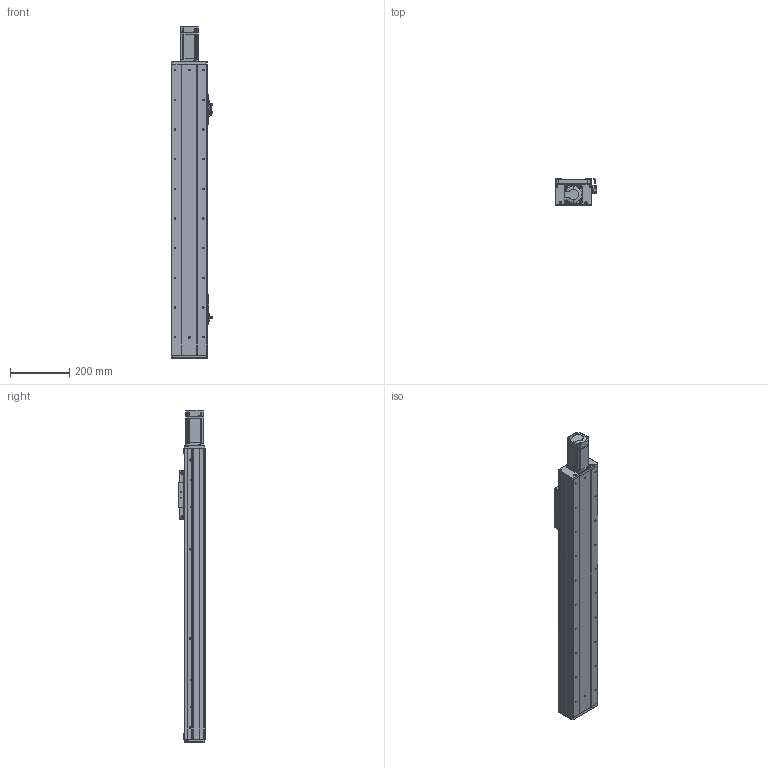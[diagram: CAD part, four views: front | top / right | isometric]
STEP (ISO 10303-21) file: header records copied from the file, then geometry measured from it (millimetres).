
FILE_DESCRIPTION (( 'STEP AP203' ), '1' );
FILE_NAME ('RY120F-L1620-300-MK.SLDASM_700.step', '2021-03-02T06:02:13', ( '盈信电脑' ), ( '东莞市道滘镇水果街19号' ), 'SwSTEP 2.0', 'SolidWorks 2012', '' );
FILE_SCHEMA (( 'CONFIG_CONTROL_DESIGN' ));
Products named in the file (19): RY120F-臏賑輸 16蹟譫; 滅袉蝶18-28; FY120F詩湍揤踡輸; RY120F-L1620-300-MK.SLDASM_700; 覜茼ん672; 672嫖萇羲壽假蚾釱; RY80俋离覜茼え; RY120F-詩湍幗謫粣; 滅袉蝶18-24; RY120F綴裔啣(臏璃ㄘ; RY120F祥凄詩滅鳥裔; 侂狟400W侜督萇儂; 15; RY120F-臏賑輸奻釱; RY120F眻蟀ヶ裔啣; 絳寢賑輸EGH15; RY120F-300-倰第菁釱_700; RY120F滅鳥詩湍-300-MK_700; RY120F-300-倰第裔啣_700
Assembly tree (25 placements, depth 3):
  RY120F-L1620-300-MK.SLDASM_700
    RY120F-300-倰第菁釱_700
    RY120F-300-倰第裔啣_700  x2
    RY120F滅鳥詩湍-300-MK_700
    絳寢賑輸EGH15  x2
    RY120F-臏賑輸奻釱
    侂狟400W侜督萇儂
      15
    RY120F眻蟀ヶ裔啣
    RY120F祥凄詩滅鳥裔
    滅袉蝶18-24
    RY120F綴裔啣(臏璃ㄘ
    RY120F-詩湍幗謫粣
    覜茼ん672  x3
    672嫖萇羲壽假蚾釱  x2
    RY80俋离覜茼え
    FY120F詩湍揤踡輸  x2
    RY120F-臏賑輸 16蹟譫
    滅袉蝶18-28  x2
Bounding box: 140.35 x 89 x 1118.5 mm (x, y, z)
Volume: 3498993.4 mm3; surface area: 1232982.7 mm2
Topology: 24 solids, 24 shells, 2161 faces, 5769 edges, 3703 vertices
Faces by surface type: cylinder 966, plane 966, cone 211, bspline 18
Entity records: 57590 total; most frequent: CARTESIAN_POINT 10271, DIRECTION 9791, ORIENTED_EDGE 9134, EDGE_CURVE 4567, AXIS2_PLACEMENT_3D 3541, VERTEX_POINT 2987, VECTOR 2709, LINE 2709
